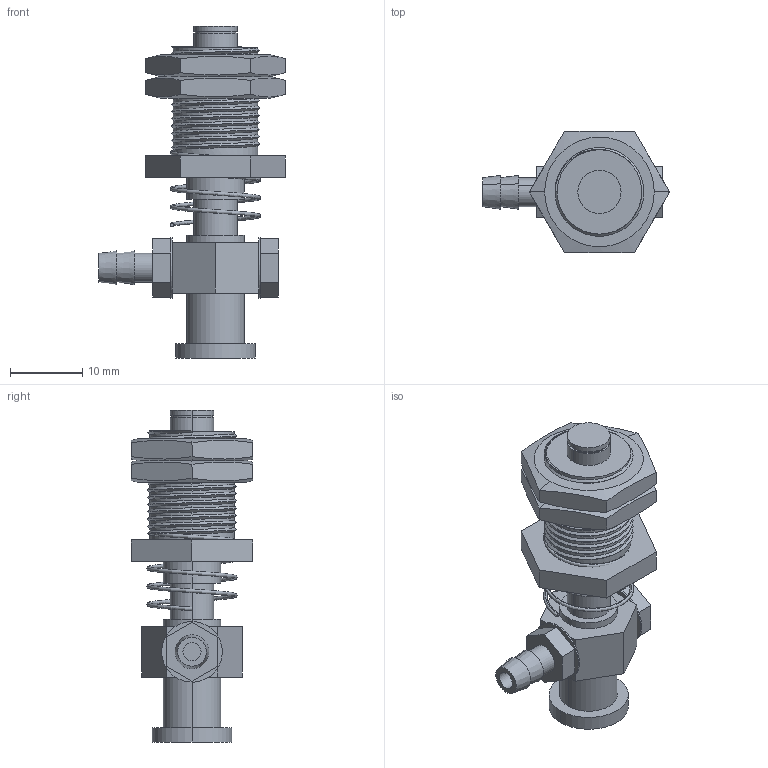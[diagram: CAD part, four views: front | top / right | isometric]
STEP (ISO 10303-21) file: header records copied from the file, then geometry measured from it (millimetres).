
FILE_DESCRIPTION (( 'STEP AP214' ), '1' );
FILE_NAME ('VFMT-5M12.STEP', '2019-11-16T01:13:51', ( '微软用户' ), ( '微软中国' ), 'SwSTEP 2.0', 'SolidWorks 2016', '' );
FILE_SCHEMA (( 'AUTOMOTIVE_DESIGN' ));
Length unit declared in the file: millimetre
Products named in the file (1): VFMT-5M12
Bounding box: 25.9 x 16.8 x 46 mm (x, y, z)
Surface area: 5689.3 mm2 (no closed solid volume)
Topology: 0 solids, 11 shells, 199 faces, 487 edges, 319 vertices
Faces by surface type: cylinder 98, plane 77, cone 14, bspline 10
Entity records: 13071 total; most frequent: CARTESIAN_POINT 6411, ORIENTED_EDGE 968, DIRECTION 808, EDGE_CURVE 485, VERTEX_POINT 319, AXIS2_PLACEMENT_3D 296, EDGE_LOOP 227, VECTOR 216
